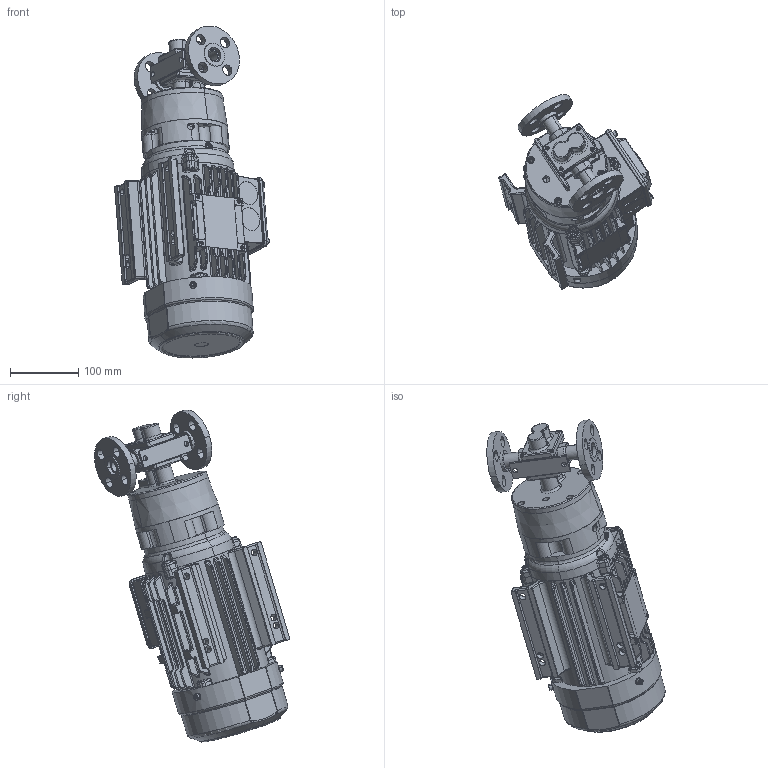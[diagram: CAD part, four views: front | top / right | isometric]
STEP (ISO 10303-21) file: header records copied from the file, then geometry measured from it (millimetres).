
FILE_DESCRIPTION (( 'STEP AP214' ), '1' );
FILE_NAME ('GMC4 FLNG IEC80 MOTOR.STEP', '2025-08-29T17:37:23', ( '' ), ( '' ), 'SwSTEP 2.0', 'SolidWorks 2024', '' );
FILE_SCHEMA (( 'AUTOMOTIVE_DESIGN' ));
Length unit declared in the file: inch
Products named in the file (1): GMC4 FLNG IEC80 MOTOR
Bounding box: 227.33 x 286.68 x 487.9 mm (x, y, z)
Volume: 5906866.8 mm3; surface area: 520187.6 mm2
Topology: 10 solids, 30 shells, 2895 faces, 6977 edges, 4067 vertices
Faces by surface type: cylinder 1157, plane 706, bspline 518, torus 222, cone 195, sphere 97
Entity records: 98175 total; most frequent: CARTESIAN_POINT 34302, ORIENTED_EDGE 13648, DIRECTION 13162, EDGE_CURVE 6824, AXIS2_PLACEMENT_3D 5269, VERTEX_POINT 4067, EDGE_LOOP 3135, ADVANCED_FACE 2895
